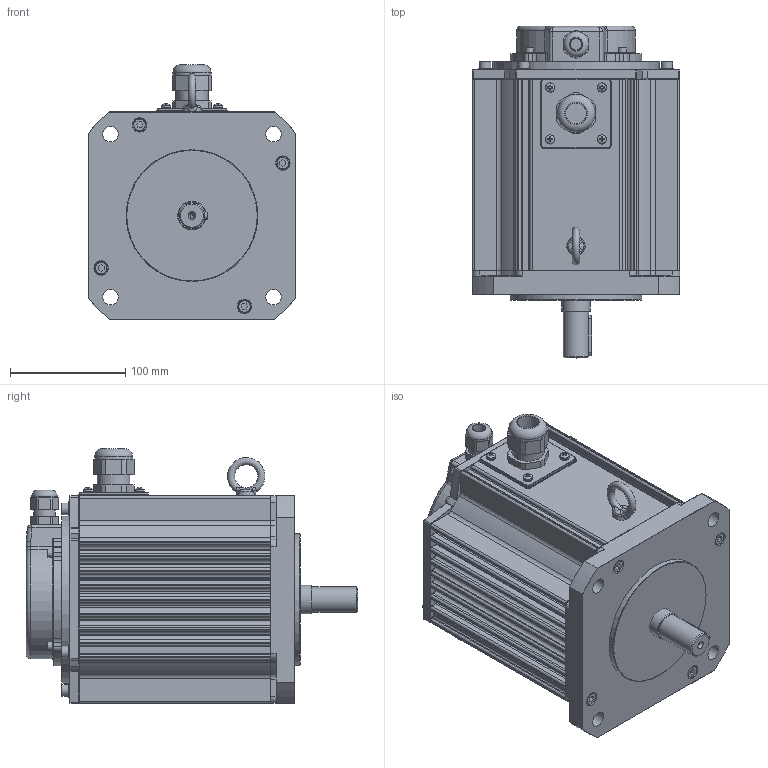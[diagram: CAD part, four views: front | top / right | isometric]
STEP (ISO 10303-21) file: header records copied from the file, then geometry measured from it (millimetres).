
FILE_DESCRIPTION(('STEP AP203'),'1');
FILE_NAME('B222E-D4R.stp','2021-04-21T01:33:59',(' '),(' '),'Spatial InterOp 3D',' ',' ');
FILE_SCHEMA(('CONFIG_CONTROL_DESIGN'));
Length unit declared in the file: millimetre
Products named in the file (1): B222E-D4R
Bounding box: 180 x 288 x 221 mm (x, y, z)
Volume: 5641801.3 mm3; surface area: 294574.2 mm2
Topology: 1 solids, 11 shells, 1632 faces, 3875 edges, 2320 vertices
Faces by surface type: plane 824, cone 374, cylinder 347, torus 73, bspline 10, sphere 4
Full cylindrical faces by diameter (mm): 3.15 x1, 4 x8, 4.2 x2, 4.5 x8, 5 x8, 6 x9, 6.5 x8, 6.75 x1, 7 x4, 8 x4, 10 x9, 10.5 x1, 12.5 x4, 13.5 x4, 18 x1, 18.5 x1, 18.6 x1, 22 x2, 24.8 x1, 28.3 x2, 29 x1, 33 x1, 41 x1, 114.3 x1, 145 x1
Entity records: 49279 total; most frequent: CARTESIAN_POINT 12099, DIRECTION 8026, ORIENTED_EDGE 7376, EDGE_CURVE 3688, AXIS2_PLACEMENT_3D 2928, VERTEX_POINT 2255, LINE 2170, VECTOR 2170
